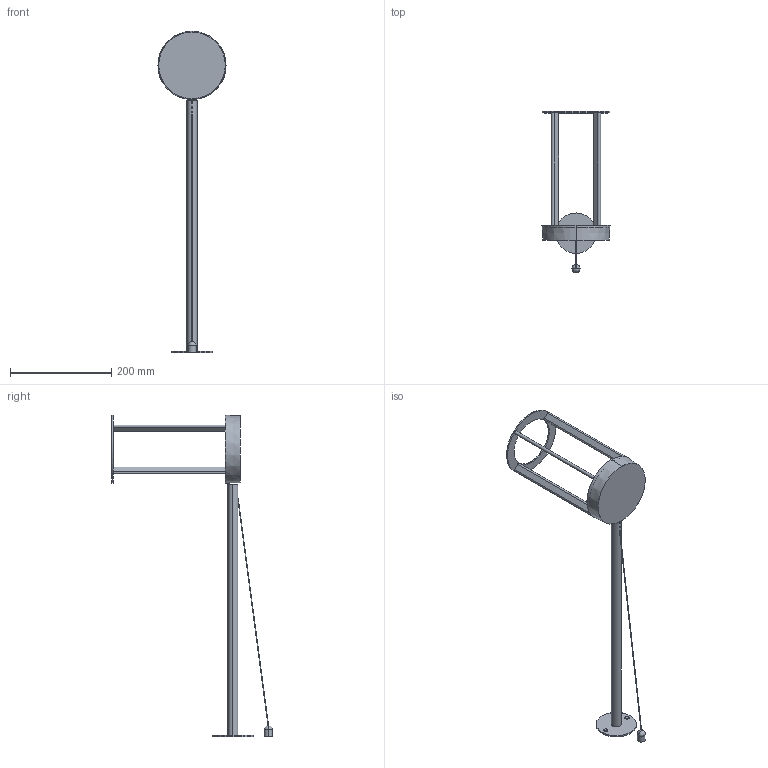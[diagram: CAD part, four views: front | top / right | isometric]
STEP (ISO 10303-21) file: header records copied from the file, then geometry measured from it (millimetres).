
FILE_DESCRIPTION((''),'2;1');
FILE_NAME('DISTANZIATORE-PARETE_SW0002','2025-07-24T09:09:27',('Piccioli'),(''),'CREO PARAMETRIC BY PTC INC, 2025010','CREO PARAMETRIC BY PTC INC, 2025010','');
FILE_SCHEMA(('CONFIG_CONTROL_DESIGN'));
Length unit declared in the file: millimetre
Products named in the file (1): DISTANZIATORE-PARETE_SW0002
Bounding box: 135 x 318 x 636.5 mm (x, y, z)
Surface area: 167607.1 mm2 (no closed solid volume)
Topology: 0 solids, 27 shells, 83 faces, 594 edges, 532 vertices
Faces by surface type: plane 35, cone 20, cylinder 18, torus 8, sphere 2
Entity records: 8317 total; most frequent: CARTESIAN_POINT 4369, ORIENTED_EDGE 693, DIRECTION 633, EDGE_CURVE 594, VERTEX_POINT 532, B_SPLINE_CURVE_WITH_KNOTS 266, AXIS2_PLACEMENT_3D 222, VECTOR 189
